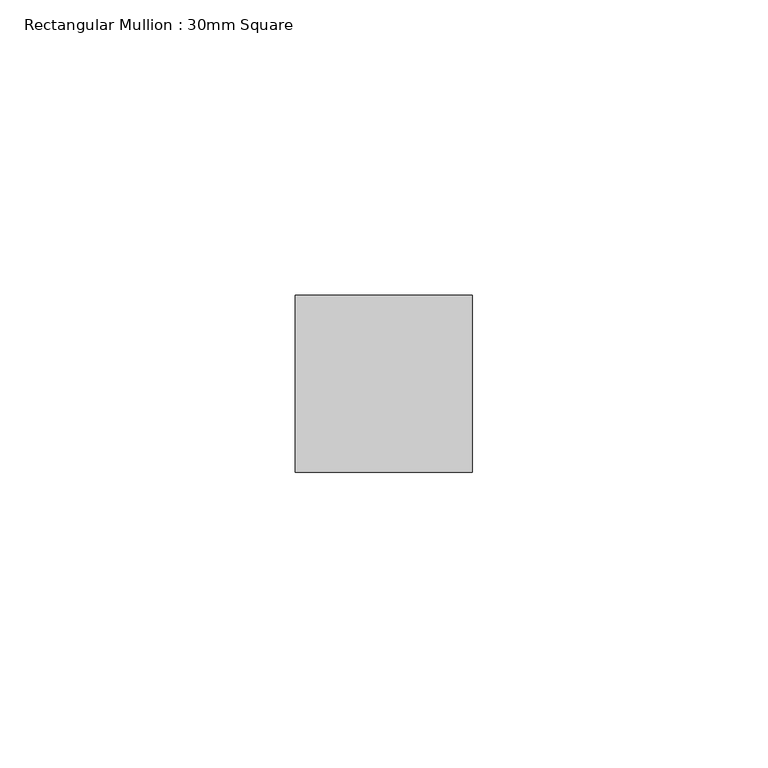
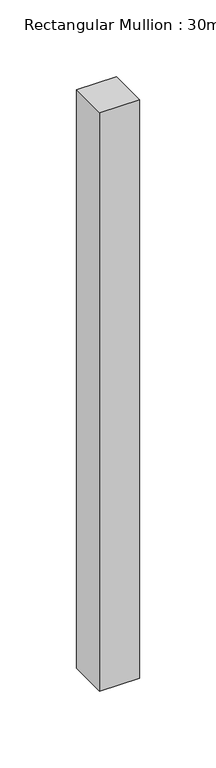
"""IFC4 building model written with IfcOpenShell, lengths in millimetres: member geometry, Rectangular Mullion : 30mm Square."""

from ifc_helpers import new_model, si_unit, frame, origin, place, context, project, spatial, polyline, outline, extrude, source, transform, mapped, element, save


def rectangular_mullion_30mm_square_6d975487(model_context):
    return source(origin(), model_context, "Body", "SweptSolid", [
        extrude(outline(polyline([(0.0, 15.0), (0.0, -15.0), (-30.0, -15.0), (-30.0, 15.0), (0.0, 15.0)])), frame((0.0, 0.0, -460.0), z_axis=(0.0, 0.0, 1.0), x_axis=(1.0, 0.0, 0.0)), (0.0, 0.0, 1.0), 460.0),
    ])


if __name__ == "__main__":
    model = new_model("IFC4")
    model_context = context("Model", 3, world=origin())
    ifc_project = project(units=[si_unit("LENGTHUNIT", "METRE", prefix="MILLI")], contexts=[model_context])
    site = spatial("IfcSite", under=ifc_project)
    building = spatial("IfcBuilding", under=site)
    placement = place(None, origin())
    rectangular_mullion_30mm_square_shape = rectangular_mullion_30mm_square_6d975487(model_context)
    element("IfcMember", 1, ObjectType="Rectangular Mullion : 30mm Square", at=placement, inside=building, context=model_context, shape_type="MappedRepresentation", body=[
        mapped(rectangular_mullion_30mm_square_shape, transform((0.0, 0.0, 0.0), x_axis=(1.0, 0.0, 0.0), y_axis=(0.0, 1.0, 0.0), z_axis=(0.0, 0.0, 1.0))),
    ])
    save(model, "model.ifc")
